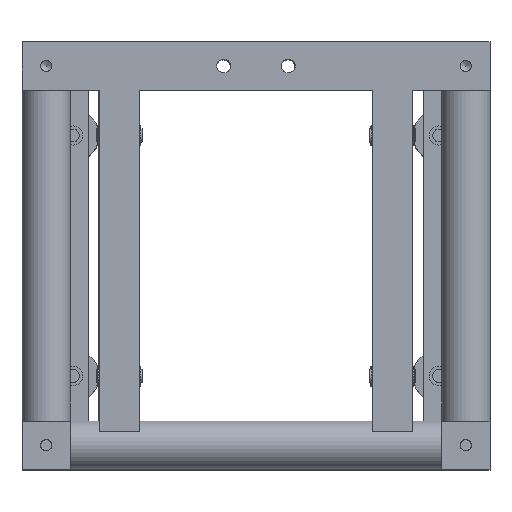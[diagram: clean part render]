
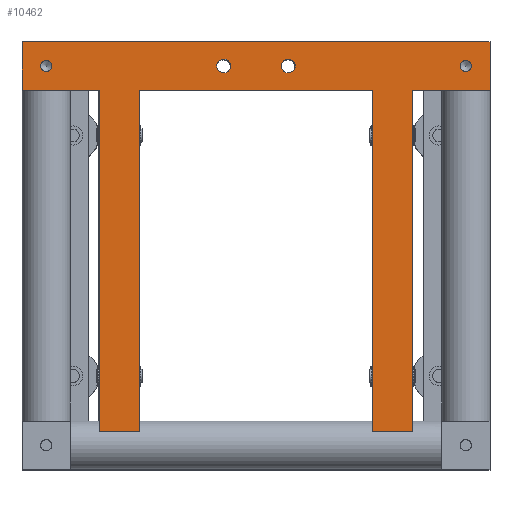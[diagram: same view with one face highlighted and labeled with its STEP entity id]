
A CAD part, top view. The second image highlights one B-rep face of the part: STEP entity #10462.
In plain terms, the highlighted planar face has unit normal (0, 0, 1).
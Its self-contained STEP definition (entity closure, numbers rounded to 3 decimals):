
#142=LINE('',#16368,#592);
#149=LINE('',#16381,#599);
#159=LINE('',#16420,#609);
#160=LINE('',#16423,#610);
#362=LINE('',#17178,#812);
#371=LINE('',#17193,#821);
#372=LINE('',#17196,#822);
#376=LINE('',#17205,#826);
#536=LINE('',#17515,#986);
#545=LINE('',#17530,#995);
#546=LINE('',#17532,#996);
#555=LINE('',#17691,#1005);
#558=LINE('',#17716,#1008);
#559=LINE('',#17717,#1009);
#592=VECTOR('',#13577,30.);
#599=VECTOR('',#13586,65.5);
#609=VECTOR('',#13628,30.);
#610=VECTOR('',#13631,65.5);
#812=VECTOR('',#14435,50.);
#821=VECTOR('',#14452,423.);
#822=VECTOR('',#14455,423.);
#826=VECTOR('',#14465,289.);
#986=VECTOR('',#14743,50.);
#995=VECTOR('',#14760,423.);
#996=VECTOR('',#14763,423.);
#1005=VECTOR('',#14966,60.);
#1008=VECTOR('',#14997,580.);
#1009=VECTOR('',#14998,60.);
#1416=PLANE('',#11829);
#1975=FACE_BOUND('',#3920,.T.);
#1976=FACE_BOUND('',#3921,.T.);
#1977=FACE_BOUND('',#3922,.T.);
#1978=FACE_BOUND('',#3923,.T.);
#2674=FACE_OUTER_BOUND('',#3919,.T.);
#3919=EDGE_LOOP('',(#8716,#8717,#8718,#8719,#8720,#8721,#8722,#8723,#8724,
#8725,#8726,#8727,#8728,#8729));
#3920=EDGE_LOOP('',(#8730));
#3921=EDGE_LOOP('',(#8731));
#3922=EDGE_LOOP('',(#8732));
#3923=EDGE_LOOP('',(#8733));
#4506=CIRCLE('',#11767,6.918);
#4513=CIRCLE('',#11794,6.918);
#4524=CIRCLE('',#11825,8.5);
#4526=CIRCLE('',#11828,8.5);
#4974=VERTEX_POINT('',#16346);
#4980=VERTEX_POINT('',#16367);
#4985=VERTEX_POINT('',#16379);
#4989=VERTEX_POINT('',#16390);
#4998=VERTEX_POINT('',#16418);
#4999=VERTEX_POINT('',#16422);
#5250=VERTEX_POINT('',#17175);
#5251=VERTEX_POINT('',#17177);
#5254=VERTEX_POINT('',#17195);
#5256=VERTEX_POINT('',#17204);
#5346=VERTEX_POINT('',#17512);
#5347=VERTEX_POINT('',#17514);
#5379=VERTEX_POINT('',#17617);
#5394=VERTEX_POINT('',#17659);
#5402=VERTEX_POINT('',#17689);
#5407=VERTEX_POINT('',#17707);
#5409=VERTEX_POINT('',#17712);
#5410=VERTEX_POINT('',#17715);
#5878=EDGE_CURVE('',#4974,#4980,#142,.T.);
#5885=EDGE_CURVE('',#4985,#4974,#149,.T.);
#5903=EDGE_CURVE('',#4998,#4989,#159,.T.);
#5904=EDGE_CURVE('',#4989,#4999,#160,.T.);
#6269=EDGE_CURVE('',#5251,#5250,#362,.T.);
#6278=EDGE_CURVE('',#5250,#4999,#371,.T.);
#6279=EDGE_CURVE('',#5251,#5254,#372,.T.);
#6283=EDGE_CURVE('',#5254,#5256,#376,.T.);
#6443=EDGE_CURVE('',#5347,#5346,#536,.T.);
#6452=EDGE_CURVE('',#5346,#5256,#545,.T.);
#6453=EDGE_CURVE('',#5347,#4985,#546,.T.);
#6492=EDGE_CURVE('',#5379,#5379,#4506,.T.);
#6511=EDGE_CURVE('',#5394,#5394,#4513,.T.);
#6524=EDGE_CURVE('',#5402,#4998,#555,.T.);
#6530=EDGE_CURVE('',#5407,#5407,#4524,.T.);
#6532=EDGE_CURVE('',#5409,#5409,#4526,.T.);
#6533=EDGE_CURVE('',#5410,#5402,#558,.T.);
#6534=EDGE_CURVE('',#4980,#5410,#559,.T.);
#8716=ORIENTED_EDGE('',*,*,#6533,.F.);
#8717=ORIENTED_EDGE('',*,*,#6534,.F.);
#8718=ORIENTED_EDGE('',*,*,#5878,.F.);
#8719=ORIENTED_EDGE('',*,*,#5885,.F.);
#8720=ORIENTED_EDGE('',*,*,#6453,.F.);
#8721=ORIENTED_EDGE('',*,*,#6443,.T.);
#8722=ORIENTED_EDGE('',*,*,#6452,.T.);
#8723=ORIENTED_EDGE('',*,*,#6283,.F.);
#8724=ORIENTED_EDGE('',*,*,#6279,.F.);
#8725=ORIENTED_EDGE('',*,*,#6269,.T.);
#8726=ORIENTED_EDGE('',*,*,#6278,.T.);
#8727=ORIENTED_EDGE('',*,*,#5904,.F.);
#8728=ORIENTED_EDGE('',*,*,#5903,.F.);
#8729=ORIENTED_EDGE('',*,*,#6524,.F.);
#8730=ORIENTED_EDGE('',*,*,#6492,.T.);
#8731=ORIENTED_EDGE('',*,*,#6511,.T.);
#8732=ORIENTED_EDGE('',*,*,#6530,.T.);
#8733=ORIENTED_EDGE('',*,*,#6532,.T.);
#10462=ADVANCED_FACE('',(#2674,#1975,#1976,#1977,#1978),#1416,.T.);
#11767=AXIS2_PLACEMENT_3D('',#17618,#14867,#14868);
#11794=AXIS2_PLACEMENT_3D('',#17660,#14921,#14922);
#11825=AXIS2_PLACEMENT_3D('',#17708,#14987,#14988);
#11828=AXIS2_PLACEMENT_3D('',#17713,#14993,#14994);
#11829=AXIS2_PLACEMENT_3D('',#17714,#14995,#14996);
#13577=DIRECTION('',(-1.,0.,0.));
#13586=DIRECTION('',(-1.,0.,0.));
#13628=DIRECTION('',(-1.,0.,0.));
#13631=DIRECTION('',(-1.,0.,0.));
#14435=DIRECTION('',(1.,0.,0.));
#14452=DIRECTION('',(0.,1.,0.));
#14455=DIRECTION('',(0.,1.,0.));
#14465=DIRECTION('',(-1.,0.,0.));
#14743=DIRECTION('',(1.,0.,0.));
#14760=DIRECTION('',(0.,1.,0.));
#14763=DIRECTION('',(0.,1.,0.));
#14867=DIRECTION('center_axis',(0.,0.,-1.));
#14868=DIRECTION('ref_axis',(1.,0.,0.));
#14921=DIRECTION('center_axis',(0.,0.,-1.));
#14922=DIRECTION('ref_axis',(1.,0.,0.));
#14966=DIRECTION('',(0.,-1.,0.));
#14987=DIRECTION('center_axis',(0.,0.,-1.));
#14988=DIRECTION('ref_axis',(1.,0.,0.));
#14993=DIRECTION('center_axis',(0.,0.,-1.));
#14994=DIRECTION('ref_axis',(1.,0.,0.));
#14995=DIRECTION('center_axis',(0.,0.,1.));
#14996=DIRECTION('ref_axis',(0.,1.,0.));
#14997=DIRECTION('',(1.,0.,0.));
#14998=DIRECTION('',(0.,1.,0.));
#16346=CARTESIAN_POINT('',(30.,0.,520.));
#16367=CARTESIAN_POINT('',(0.,0.,520.));
#16368=CARTESIAN_POINT('',(580.,0.,520.));
#16379=CARTESIAN_POINT('',(95.5,0.,520.));
#16381=CARTESIAN_POINT('',(580.,0.,520.));
#16390=CARTESIAN_POINT('',(550.,0.,520.));
#16418=CARTESIAN_POINT('',(580.,0.,520.));
#16420=CARTESIAN_POINT('',(580.,0.,520.));
#16422=CARTESIAN_POINT('',(484.5,0.,520.));
#16423=CARTESIAN_POINT('',(580.,0.,520.));
#17175=CARTESIAN_POINT('',(484.5,-423.,520.));
#17177=CARTESIAN_POINT('',(434.5,-423.,520.));
#17178=CARTESIAN_POINT('',(434.5,-423.,520.));
#17193=CARTESIAN_POINT('',(484.5,-423.,520.));
#17195=CARTESIAN_POINT('',(434.5,0.,520.));
#17196=CARTESIAN_POINT('',(434.5,-423.,520.));
#17204=CARTESIAN_POINT('',(145.5,0.,520.));
#17205=CARTESIAN_POINT('',(580.,0.,520.));
#17512=CARTESIAN_POINT('',(145.5,-423.,520.));
#17514=CARTESIAN_POINT('',(95.5,-423.,520.));
#17515=CARTESIAN_POINT('',(95.5,-423.,520.));
#17530=CARTESIAN_POINT('',(145.5,-423.,520.));
#17532=CARTESIAN_POINT('',(95.5,-423.,520.));
#17617=CARTESIAN_POINT('',(556.918,30.,520.));
#17618=CARTESIAN_POINT('Origin',(550.,30.,520.));
#17659=CARTESIAN_POINT('',(36.918,30.,520.));
#17660=CARTESIAN_POINT('Origin',(30.,30.,520.));
#17689=CARTESIAN_POINT('',(580.,60.,520.));
#17691=CARTESIAN_POINT('',(580.,60.,520.));
#17707=CARTESIAN_POINT('',(258.5,30.,520.));
#17708=CARTESIAN_POINT('Origin',(250.,30.,520.));
#17712=CARTESIAN_POINT('',(338.5,30.,520.));
#17713=CARTESIAN_POINT('Origin',(330.,30.,520.));
#17714=CARTESIAN_POINT('Origin',(520.,0.,520.));
#17715=CARTESIAN_POINT('',(0.,60.,520.));
#17716=CARTESIAN_POINT('',(520.,60.,520.));
#17717=CARTESIAN_POINT('',(0.,0.,520.));
